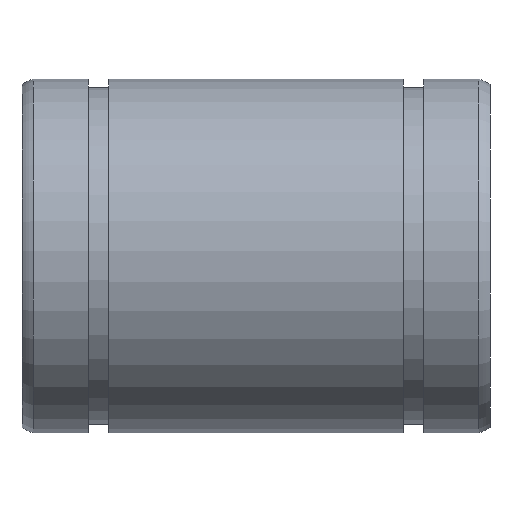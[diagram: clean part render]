
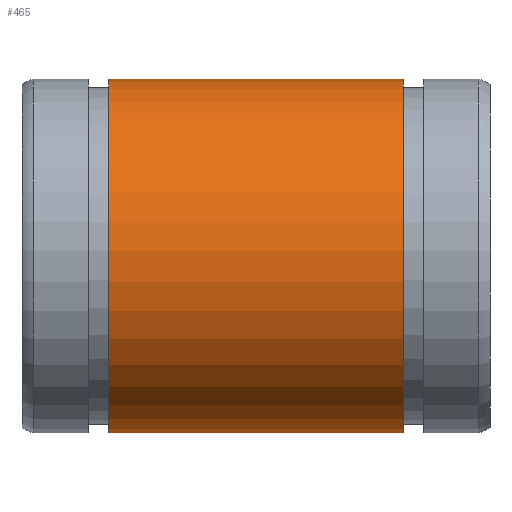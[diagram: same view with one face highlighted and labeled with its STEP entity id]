
A CAD part, front view. The second image highlights one B-rep face of the part: STEP entity #465.
In plain terms, the highlighted cylindrical face has radius 14 mm (diameter 28 mm), a partial arc.
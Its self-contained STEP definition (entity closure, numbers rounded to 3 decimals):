
#87=CARTESIAN_POINT('',(6.85,0.75,-13.98));
#88=VERTEX_POINT('',#87);
#95=CARTESIAN_POINT('',(30.15,0.75,-13.98));
#96=VERTEX_POINT('',#95);
#97=CARTESIAN_POINT('',(30.15,0.75,-13.98));
#98=DIRECTION('',(-1.0,0.0,0.0));
#99=VECTOR('',#98,23.3);
#100=LINE('',#97,#99);
#101=EDGE_CURVE('',#96,#88,#100,.T.);
#321=CARTESIAN_POINT('',(30.15,-0.75,-13.98));
#322=VERTEX_POINT('',#321);
#329=CARTESIAN_POINT('',(6.85,-0.75,-13.98));
#330=VERTEX_POINT('',#329);
#331=CARTESIAN_POINT('',(6.85,-0.75,-13.98));
#332=DIRECTION('',(1.0,0.0,0.0));
#333=VECTOR('',#332,23.3);
#334=LINE('',#331,#333);
#335=EDGE_CURVE('',#330,#322,#334,.T.);
#436=CARTESIAN_POINT('',(6.85,0.0,0.));
#437=DIRECTION('',(-1.0,0.0,0.0));
#438=DIRECTION('',(0.0,0.0,1.0));
#439=AXIS2_PLACEMENT_3D('',#436,#437,#438);
#440=CIRCLE('',#439,14.);
#441=EDGE_CURVE('',#330,#88,#440,.T.);
#448=CARTESIAN_POINT('',(18.5,0.0,0.));
#449=DIRECTION('',(-1.0,0.0,0.0));
#450=DIRECTION('',(0.0,0.0,1.0));
#451=AXIS2_PLACEMENT_3D('',#448,#449,#450);
#452=CYLINDRICAL_SURFACE('',#451,14.);
#453=ORIENTED_EDGE('',*,*,#335,.T.);
#454=CARTESIAN_POINT('',(30.15,0.0,0.));
#455=DIRECTION('',(-1.0,0.0,0.0));
#456=DIRECTION('',(0.0,0.0,1.0));
#457=AXIS2_PLACEMENT_3D('',#454,#455,#456);
#458=CIRCLE('',#457,14.);
#459=EDGE_CURVE('',#322,#96,#458,.T.);
#460=ORIENTED_EDGE('',*,*,#459,.T.);
#461=ORIENTED_EDGE('',*,*,#101,.T.);
#462=ORIENTED_EDGE('',*,*,#441,.F.);
#463=EDGE_LOOP('',(#453,#460,#461,#462));
#464=FACE_OUTER_BOUND('',#463,.T.);
#465=ADVANCED_FACE('',(#464),#452,.T.);
